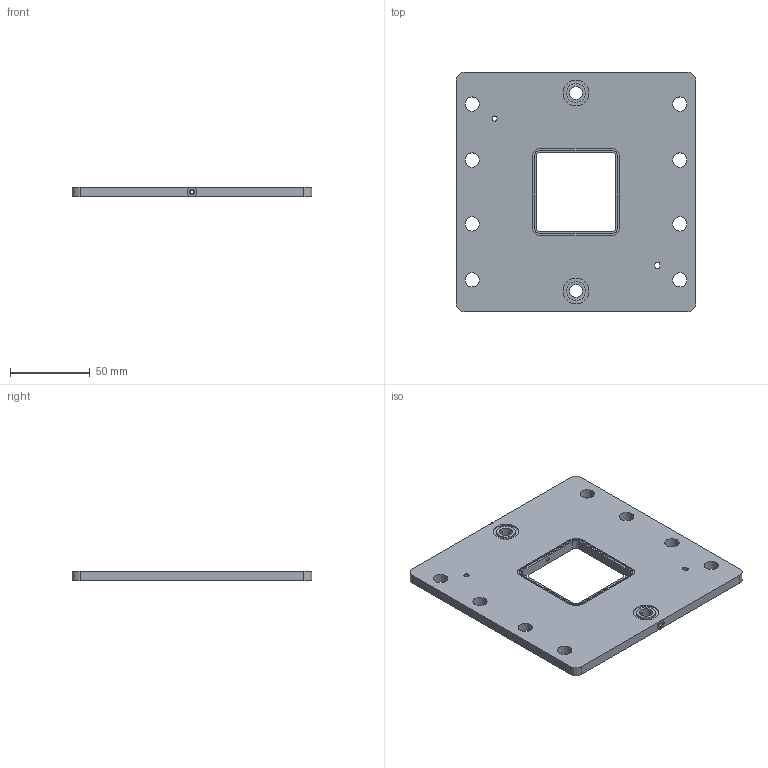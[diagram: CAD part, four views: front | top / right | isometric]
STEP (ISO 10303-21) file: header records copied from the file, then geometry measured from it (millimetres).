
FILE_DESCRIPTION(('FreeCAD Model'),'2;1');
FILE_NAME('Open CASCADE Shape Model','2026-10-30T14:30:55',('FreeCAD'),( 'FreeCAD'),'Open CASCADE STEP processor 7.8','FreeCAD','Unknown');
FILE_SCHEMA(('AUTOMOTIVE_DESIGN { 1 0 10303 214 1 1 1 1 }'));
Length unit declared in the file: millimetre
Products named in the file (1): Open CASCADE STEP translator 7.8 1
Bounding box: 150 x 150 x 6 mm (x, y, z)
Volume: 114901.4 mm3; surface area: 46826.6 mm2
Topology: 1 solids, 1 shells, 103 faces, 261 edges, 174 vertices
Faces by surface type: cylinder 55, plane 48
Full cylindrical faces by diameter (mm): 2.2 x4, 3.2 x1, 3.3 x2, 6 x2, 8 x2, 9 x8, 11.8 x4, 16.2 x4
Entity records: 3389 total; most frequent: CARTESIAN_POINT 713, DIRECTION 577, ORIENTED_EDGE 522, EDGE_CURVE 261, AXIS2_PLACEMENT_3D 218, VERTEX_POINT 174, FACE_BOUND 151, EDGE_LOOP 151
